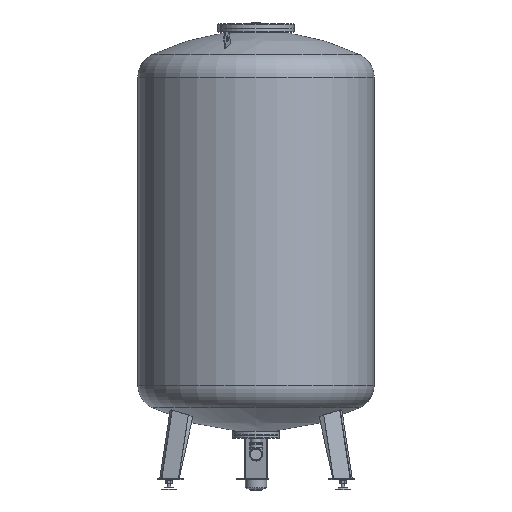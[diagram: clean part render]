
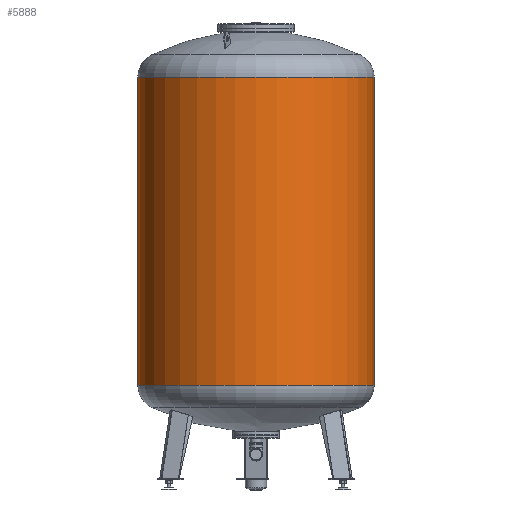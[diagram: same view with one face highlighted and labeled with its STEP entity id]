
A CAD part, left-side view. The second image highlights one B-rep face of the part: STEP entity #5888.
In plain terms, the highlighted cylindrical face has radius 500 mm (diameter 1000 mm), a full revolution.
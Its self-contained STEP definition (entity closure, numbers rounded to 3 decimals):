
#155=CYLINDRICAL_SURFACE('',#6462,500.);
#195=FACE_BOUND('',#816,.T.);
#474=FACE_OUTER_BOUND('',#815,.T.);
#815=EDGE_LOOP('',(#4593,#4594,#4595,#4596,#4597,#4598,#4599,#4600,#4601,
#4602,#4603,#4604,#4605,#4606));
#816=EDGE_LOOP('',(#4607,#4608,#4609,#4610));
#987=LINE('',#8531,#1412);
#990=LINE('',#8537,#1415);
#1104=LINE('',#9238,#1529);
#1130=LINE('',#9293,#1555);
#1206=LINE('',#9734,#1631);
#1207=LINE('',#9735,#1632);
#1412=VECTOR('',#6747,10.);
#1415=VECTOR('',#6752,10.);
#1529=VECTOR('',#7398,10.);
#1555=VECTOR('',#7442,10.);
#1631=VECTOR('',#7774,500.);
#1632=VECTOR('',#7775,500.);
#1834=CIRCLE('',#6059,500.);
#1835=CIRCLE('',#6064,500.);
#1987=CIRCLE('',#6325,500.);
#1988=CIRCLE('',#6326,500.);
#1989=CIRCLE('',#6334,500.);
#1990=CIRCLE('',#6335,500.);
#2057=CIRCLE('',#6458,500.);
#2058=CIRCLE('',#6459,500.);
#2061=CIRCLE('',#6463,500.);
#2062=CIRCLE('',#6464,500.);
#2182=VERTEX_POINT('',#8521);
#2183=VERTEX_POINT('',#8522);
#2186=VERTEX_POINT('',#8530);
#2188=VERTEX_POINT('',#8536);
#2390=VERTEX_POINT('',#9226);
#2391=VERTEX_POINT('',#9227);
#2394=VERTEX_POINT('',#9233);
#2395=VERTEX_POINT('',#9237);
#2414=VERTEX_POINT('',#9287);
#2415=VERTEX_POINT('',#9288);
#2525=VERTEX_POINT('',#9723);
#2526=VERTEX_POINT('',#9724);
#2527=VERTEX_POINT('',#9730);
#2528=VERTEX_POINT('',#9731);
#2764=EDGE_CURVE('',#2182,#2183,#1834,.T.);
#2768=EDGE_CURVE('',#2186,#2182,#987,.T.);
#2771=EDGE_CURVE('',#2183,#2188,#990,.T.);
#2775=EDGE_CURVE('',#2188,#2186,#1835,.T.);
#3072=EDGE_CURVE('',#2390,#2391,#1987,.T.);
#3076=EDGE_CURVE('',#2391,#2394,#1988,.T.);
#3077=EDGE_CURVE('',#2395,#2390,#1104,.T.);
#3102=EDGE_CURVE('',#2414,#2415,#1989,.T.);
#3104=EDGE_CURVE('',#2415,#2395,#1990,.T.);
#3105=EDGE_CURVE('',#2394,#2414,#1130,.T.);
#3264=EDGE_CURVE('',#2525,#2526,#2057,.T.);
#3265=EDGE_CURVE('',#2526,#2525,#2058,.T.);
#3268=EDGE_CURVE('',#2527,#2528,#2061,.T.);
#3269=EDGE_CURVE('',#2528,#2527,#2062,.T.);
#3270=EDGE_CURVE('',#2528,#2415,#1206,.T.);
#3271=EDGE_CURVE('',#2391,#2526,#1207,.T.);
#4593=ORIENTED_EDGE('',*,*,#3268,.F.);
#4594=ORIENTED_EDGE('',*,*,#3269,.F.);
#4595=ORIENTED_EDGE('',*,*,#3270,.T.);
#4596=ORIENTED_EDGE('',*,*,#3104,.T.);
#4597=ORIENTED_EDGE('',*,*,#3077,.T.);
#4598=ORIENTED_EDGE('',*,*,#3072,.T.);
#4599=ORIENTED_EDGE('',*,*,#3271,.T.);
#4600=ORIENTED_EDGE('',*,*,#3265,.T.);
#4601=ORIENTED_EDGE('',*,*,#3264,.T.);
#4602=ORIENTED_EDGE('',*,*,#3271,.F.);
#4603=ORIENTED_EDGE('',*,*,#3076,.T.);
#4604=ORIENTED_EDGE('',*,*,#3105,.T.);
#4605=ORIENTED_EDGE('',*,*,#3102,.T.);
#4606=ORIENTED_EDGE('',*,*,#3270,.F.);
#4607=ORIENTED_EDGE('',*,*,#2768,.T.);
#4608=ORIENTED_EDGE('',*,*,#2764,.T.);
#4609=ORIENTED_EDGE('',*,*,#2771,.T.);
#4610=ORIENTED_EDGE('',*,*,#2775,.T.);
#5888=ADVANCED_FACE('',(#474,#195),#155,.T.);
#6059=AXIS2_PLACEMENT_3D('',#8523,#6740,#6741);
#6064=AXIS2_PLACEMENT_3D('',#8544,#6760,#6761);
#6325=AXIS2_PLACEMENT_3D('',#9228,#7389,#7390);
#6326=AXIS2_PLACEMENT_3D('',#9235,#7394,#7395);
#6334=AXIS2_PLACEMENT_3D('',#9289,#7435,#7436);
#6335=AXIS2_PLACEMENT_3D('',#9291,#7438,#7439);
#6458=AXIS2_PLACEMENT_3D('',#9725,#7760,#7761);
#6459=AXIS2_PLACEMENT_3D('',#9726,#7762,#7763);
#6462=AXIS2_PLACEMENT_3D('',#9729,#7768,#7769);
#6463=AXIS2_PLACEMENT_3D('',#9732,#7770,#7771);
#6464=AXIS2_PLACEMENT_3D('',#9733,#7772,#7773);
#6740=DIRECTION('center_axis',(0.,0.,1.));
#6741=DIRECTION('ref_axis',(-1.,0.,0.));
#6747=DIRECTION('',(0.,0.,1.));
#6752=DIRECTION('',(0.,0.,-1.));
#6760=DIRECTION('center_axis',(0.,0.,-1.));
#6761=DIRECTION('ref_axis',(-1.,0.,0.));
#7389=DIRECTION('center_axis',(0.,0.,1.));
#7390=DIRECTION('ref_axis',(-1.,0.,0.));
#7394=DIRECTION('center_axis',(0.,0.,1.));
#7395=DIRECTION('ref_axis',(-1.,0.,0.));
#7398=DIRECTION('',(0.,0.,1.));
#7435=DIRECTION('center_axis',(0.,0.,-1.));
#7436=DIRECTION('ref_axis',(-1.,0.,0.));
#7438=DIRECTION('center_axis',(0.,0.,-1.));
#7439=DIRECTION('ref_axis',(-1.,0.,0.));
#7442=DIRECTION('',(0.,0.,-1.));
#7760=DIRECTION('center_axis',(0.,0.,-1.));
#7761=DIRECTION('ref_axis',(1.,0.,0.));
#7762=DIRECTION('center_axis',(0.,0.,-1.));
#7763=DIRECTION('ref_axis',(1.,0.,0.));
#7768=DIRECTION('center_axis',(0.,0.,-1.));
#7769=DIRECTION('ref_axis',(-1.,0.,0.));
#7770=DIRECTION('center_axis',(0.,0.,-1.));
#7771=DIRECTION('ref_axis',(1.,0.,0.));
#7772=DIRECTION('center_axis',(0.,0.,-1.));
#7773=DIRECTION('ref_axis',(1.,0.,0.));
#7774=DIRECTION('',(0.,0.,1.));
#7775=DIRECTION('',(0.,0.,1.));
#8521=CARTESIAN_POINT('',(388.871,-314.292,1644.5));
#8522=CARTESIAN_POINT('',(452.556,-212.586,1644.5));
#8523=CARTESIAN_POINT('Origin',(0.,0.,1644.5));
#8530=CARTESIAN_POINT('',(388.871,-314.292,1554.5));
#8531=CARTESIAN_POINT('',(388.871,-314.292,455.288));
#8536=CARTESIAN_POINT('',(452.556,-212.586,1554.5));
#8537=CARTESIAN_POINT('',(452.556,-212.586,455.288));
#8544=CARTESIAN_POINT('Origin',(0.,0.,1554.5));
#9226=CARTESIAN_POINT('',(486.595,-115.,1648.5));
#9227=CARTESIAN_POINT('',(500.,0.,1648.5));
#9228=CARTESIAN_POINT('Origin',(0.,0.,1648.5));
#9233=CARTESIAN_POINT('',(486.595,115.,1648.5));
#9235=CARTESIAN_POINT('Origin',(0.,0.,1648.5));
#9237=CARTESIAN_POINT('',(486.595,-115.,1027.8));
#9238=CARTESIAN_POINT('',(486.595,-115.,455.288));
#9287=CARTESIAN_POINT('',(486.595,115.,1027.8));
#9288=CARTESIAN_POINT('',(500.,0.,1027.8));
#9289=CARTESIAN_POINT('Origin',(0.,0.,1027.8));
#9291=CARTESIAN_POINT('Origin',(0.,0.,1027.8));
#9293=CARTESIAN_POINT('',(486.595,115.,455.288));
#9723=CARTESIAN_POINT('',(-500.,0.,1747.235));
#9724=CARTESIAN_POINT('',(500.,0.,1747.235));
#9725=CARTESIAN_POINT('Origin',(0.,0.,1747.235));
#9726=CARTESIAN_POINT('Origin',(0.,0.,1747.235));
#9729=CARTESIAN_POINT('Origin',(0.,0.,455.288));
#9730=CARTESIAN_POINT('',(-500.,0.,443.075));
#9731=CARTESIAN_POINT('',(500.,0.,443.075));
#9732=CARTESIAN_POINT('Origin',(0.,0.,443.075));
#9733=CARTESIAN_POINT('Origin',(0.,0.,443.075));
#9734=CARTESIAN_POINT('',(500.,0.,455.288));
#9735=CARTESIAN_POINT('',(500.,0.,455.288));
